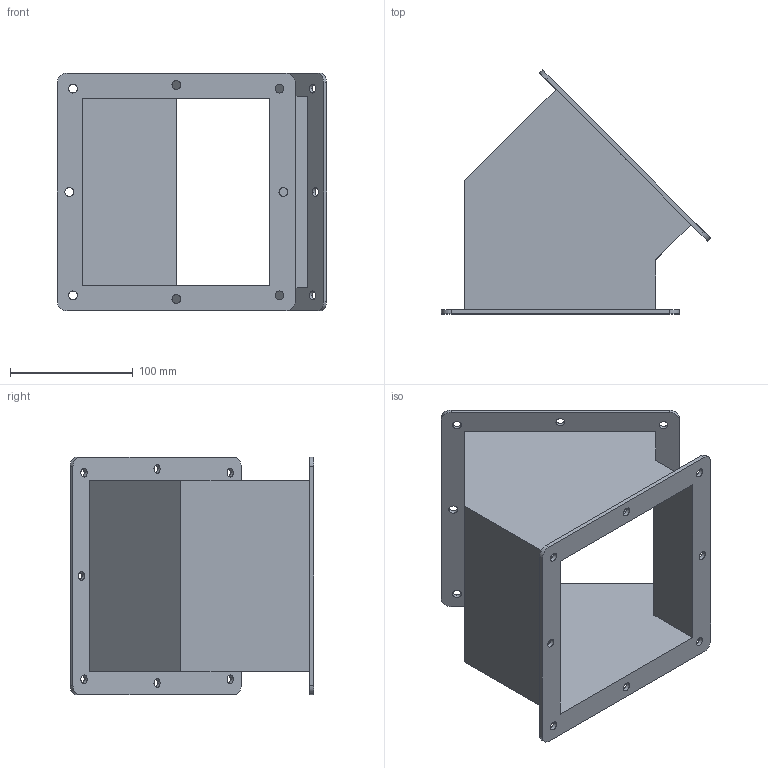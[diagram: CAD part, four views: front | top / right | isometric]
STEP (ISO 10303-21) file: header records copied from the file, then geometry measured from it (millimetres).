
FILE_DESCRIPTION((''),'1');
FILE_NAME('2','2001-04-18T',('jlue'),(''),'PRO/ENGINEER BY PARAMETRIC TECHNOLOGY CORPORATION, 9846','PRO/ENGINEER BY PARAMETRIC TECHNOLOGY CORPORATION, 9846','');
FILE_SCHEMA(('CONFIG_CONTROL_DESIGN'));
Length unit declared in the file: inch
Products named in the file (1): 2
Bounding box: 219.09 x 198.51 x 193.55 mm (x, y, z)
Surface area: 243414.3 mm2 (no closed solid volume)
Topology: 0 solids, 0 shells, 64 faces, 368 edges, 376 vertices
Faces by surface type: cylinder 40, plane 24
Entity records: 1910 total; most frequent: DIRECTION 396, COMPOSITE_CURVE_SEGMENT 360, CARTESIAN_POINT 252, TRIMMED_CURVE 188, AXIS2_PLACEMENT_3D 144, VECTOR 108, LINE 108, CIRCLE 80
